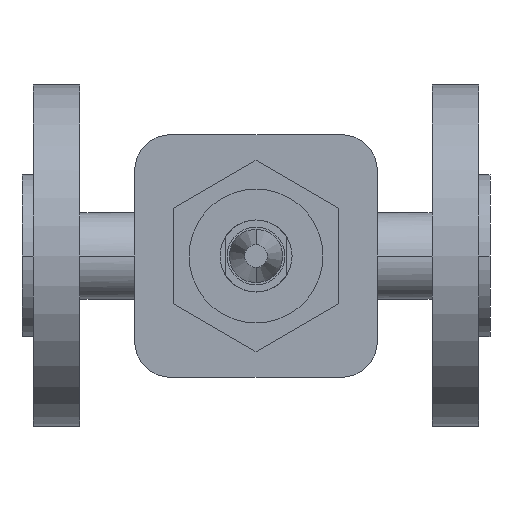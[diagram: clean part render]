
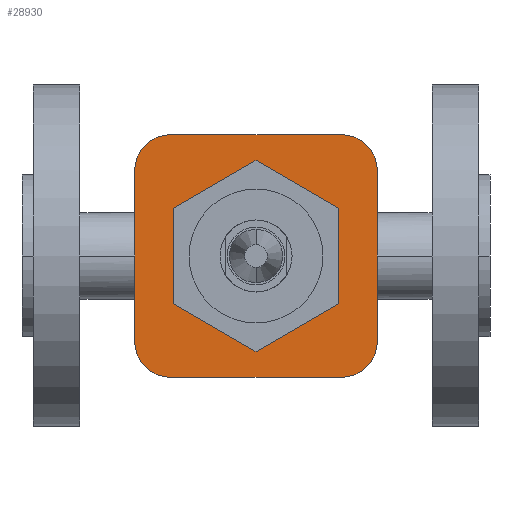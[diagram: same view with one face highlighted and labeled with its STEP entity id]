
A CAD part, front view. The second image highlights one B-rep face of the part: STEP entity #28930.
In plain terms, the highlighted planar face has unit normal (0, -1, 0).
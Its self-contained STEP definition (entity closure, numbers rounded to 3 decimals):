
#11710=CARTESIAN_POINT('',(86.,-61.5,0.));
#11720=VERTEX_POINT('',#11710);
#11770=CARTESIAN_POINT('',(65.,-61.5,0.));
#11780=DIRECTION('',(0.,1.,0.));
#11790=DIRECTION('',(1.,0.,0.));
#11800=AXIS2_PLACEMENT_3D('',#11770,#11780,#11790);
#11810=CIRCLE('',#11800,21.);
#11820=CARTESIAN_POINT('',(44.,-61.5,0.));
#11830=VERTEX_POINT('',#11820);
#11840=EDGE_CURVE('',#11720,#11830,#11810,.T.);
#25760=CARTESIAN_POINT('',(98.688,-61.5,-23.688));
#25770=VERTEX_POINT('',#25760);
#25930=CARTESIAN_POINT('',(88.688,-61.5,-33.688));
#25940=VERTEX_POINT('',#25930);
#25970=CARTESIAN_POINT('',(88.688,-61.5,-23.688));
#25980=DIRECTION('',(0.,-1.,0.));
#25990=DIRECTION('',(1.,0.,0.));
#26000=AXIS2_PLACEMENT_3D('',#25970,#25980,#25990);
#26010=CIRCLE('',#26000,10.);
#26020=EDGE_CURVE('',#25940,#25770,#26010,.T.);
#26320=CARTESIAN_POINT('',(41.312,-61.5,-33.688));
#26330=VERTEX_POINT('',#26320);
#26360=CARTESIAN_POINT('',(93.219,-61.5,-33.688));
#26370=DIRECTION('',(1.,0.,0.));
#26380=VECTOR('',#26370,1.);
#26390=LINE('',#26360,#26380);
#26400=EDGE_CURVE('',#26330,#25940,#26390,.T.);
#28300=CARTESIAN_POINT('',(97.75,-61.5,0.));
#28310=DIRECTION('',(0.,-1.,0.));
#28320=DIRECTION('',(-1.,0.,0.));
#28330=AXIS2_PLACEMENT_3D('',#28300,#28310,#28320);
#28340=PLANE('',#28330);
#28350=CARTESIAN_POINT('',(41.312,-61.5,23.688));
#28360=DIRECTION('',(0.,-1.,0.));
#28370=DIRECTION('',(-1.,0.,0.));
#28380=AXIS2_PLACEMENT_3D('',#28350,#28360,#28370);
#28390=CIRCLE('',#28380,10.);
#28400=CARTESIAN_POINT('',(41.312,-61.5,33.688));
#28410=VERTEX_POINT('',#28400);
#28420=CARTESIAN_POINT('',(31.312,-61.5,23.688));
#28430=VERTEX_POINT('',#28420);
#28440=EDGE_CURVE('',#28410,#28430,#28390,.T.);
#28450=ORIENTED_EDGE('',*,*,#28440,.T.);
#28460=CARTESIAN_POINT('',(69.531,-61.5,33.688));
#28470=DIRECTION('',(-1.,0.,0.));
#28480=VECTOR('',#28470,1.);
#28490=LINE('',#28460,#28480);
#28500=CARTESIAN_POINT('',(88.688,-61.5,33.688));
#28510=VERTEX_POINT('',#28500);
#28520=EDGE_CURVE('',#28510,#28410,#28490,.T.);
#28530=ORIENTED_EDGE('',*,*,#28520,.T.);
#28540=CARTESIAN_POINT('',(88.688,-61.5,23.688));
#28550=DIRECTION('',(0.,-1.,0.));
#28560=DIRECTION('',(0.,0.,1.));
#28570=AXIS2_PLACEMENT_3D('',#28540,#28550,#28560);
#28580=CIRCLE('',#28570,10.);
#28590=CARTESIAN_POINT('',(98.688,-61.5,23.688));
#28600=VERTEX_POINT('',#28590);
#28610=EDGE_CURVE('',#28600,#28510,#28580,.T.);
#28620=ORIENTED_EDGE('',*,*,#28610,.T.);
#28630=CARTESIAN_POINT('',(98.688,-61.5,11.844));
#28640=DIRECTION('',(0.,0.,1.));
#28650=VECTOR('',#28640,1.);
#28660=LINE('',#28630,#28650);
#28670=EDGE_CURVE('',#25770,#28600,#28660,.T.);
#28680=ORIENTED_EDGE('',*,*,#28670,.T.);
#28690=ORIENTED_EDGE('',*,*,#26020,.T.);
#28700=ORIENTED_EDGE('',*,*,#26400,.T.);
#28710=CARTESIAN_POINT('',(41.312,-61.5,-23.688));
#28720=DIRECTION('',(0.,-1.,0.));
#28730=DIRECTION('',(0.,0.,-1.));
#28740=AXIS2_PLACEMENT_3D('',#28710,#28720,#28730);
#28750=CIRCLE('',#28740,10.);
#28760=CARTESIAN_POINT('',(31.312,-61.5,-23.688));
#28770=VERTEX_POINT('',#28760);
#28780=EDGE_CURVE('',#28770,#26330,#28750,.T.);
#28790=ORIENTED_EDGE('',*,*,#28780,.T.);
#28800=CARTESIAN_POINT('',(31.312,-61.5,-11.844));
#28810=DIRECTION('',(0.,0.,-1.));
#28820=VECTOR('',#28810,1.);
#28830=LINE('',#28800,#28820);
#28840=EDGE_CURVE('',#28430,#28770,#28830,.T.);
#28850=ORIENTED_EDGE('',*,*,#28840,.T.);
#28860=EDGE_LOOP('',(#28850,#28790,#28700,#28690,#28680,#28620,#28530,
#28450));
#28870=FACE_OUTER_BOUND('',#28860,.T.);
#28880=ORIENTED_EDGE('',*,*,#11840,.T.);
#28890=EDGE_CURVE('',#11830,#11720,#11810,.T.);
#28900=ORIENTED_EDGE('',*,*,#28890,.T.);
#28910=EDGE_LOOP('',(#28900,#28880));
#28920=FACE_BOUND('',#28910,.T.);
#28930=ADVANCED_FACE('',(#28870,#28920),#28340,.T.);
